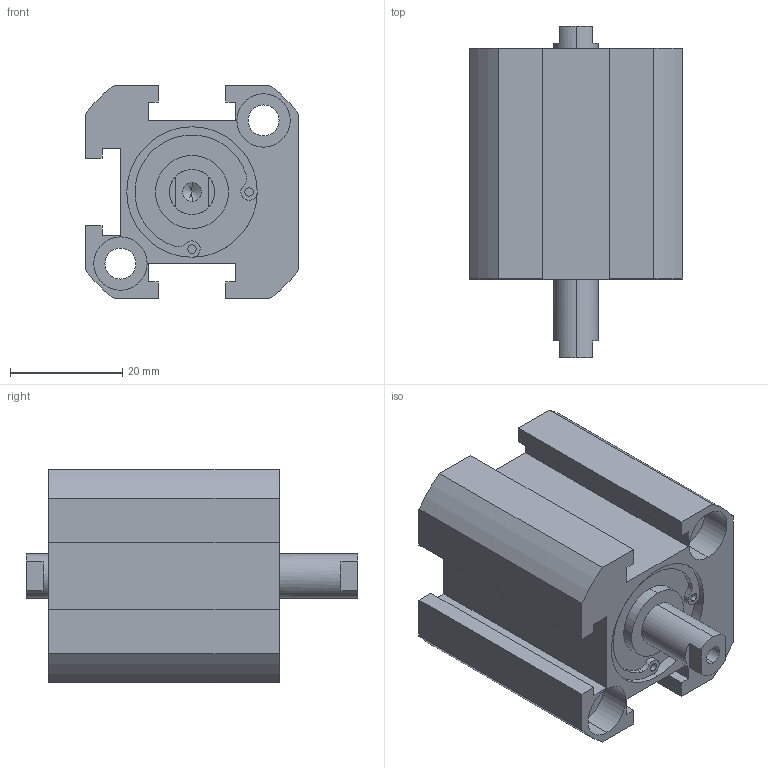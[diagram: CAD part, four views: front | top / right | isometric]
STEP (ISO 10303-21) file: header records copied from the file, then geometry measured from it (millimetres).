
FILE_DESCRIPTION (( 'STEP AP203' ), '1' );
FILE_NAME ('XG#7-20D-10.STEP', '2016-05-24T01:57:30', ( '' ), ( '' ), 'SwSTEP 2.0', 'SolidWorks 2014', '' );
FILE_SCHEMA (( 'CONFIG_CONTROL_DESIGN' ));
Length unit declared in the file: millimetre
Products named in the file (1): XG#7-20D-10
Bounding box: 38 x 59 x 38 mm (x, y, z)
Volume: 42996.1 mm3; surface area: 13439.4 mm2
Topology: 1 solids, 1 shells, 120 faces, 302 edges, 194 vertices
Faces by surface type: cylinder 58, plane 54, cone 8
Entity records: 3661 total; most frequent: DIRECTION 662, CARTESIAN_POINT 609, ORIENTED_EDGE 588, EDGE_CURVE 294, AXIS2_PLACEMENT_3D 247, VERTEX_POINT 194, LINE 168, VECTOR 168
